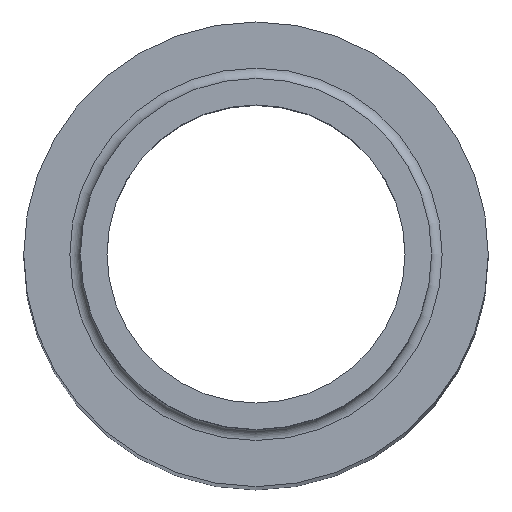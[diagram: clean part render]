
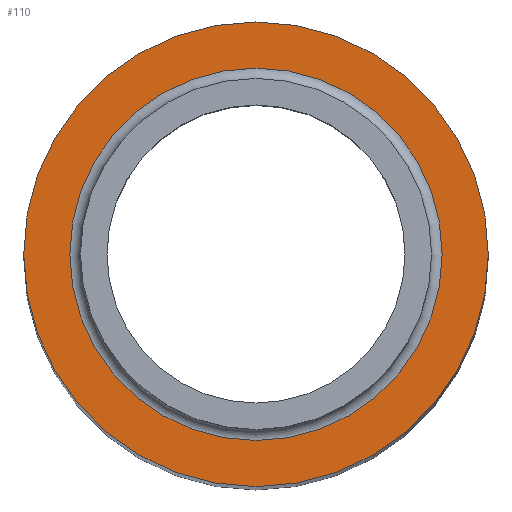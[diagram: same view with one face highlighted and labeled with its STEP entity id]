
A CAD part, top view. The second image highlights one B-rep face of the part: STEP entity #110.
In plain terms, the highlighted planar face has unit normal (0, 0, 1).
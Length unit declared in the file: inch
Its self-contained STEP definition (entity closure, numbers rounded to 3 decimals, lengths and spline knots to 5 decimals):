
#110=ADVANCED_FACE('',(#123,#124),#119,.T.);
#119=PLANE('',#208);
#123=FACE_BOUND('',#141,.T.);
#124=FACE_BOUND('',#142,.T.);
#141=EDGE_LOOP('',(#159));
#142=EDGE_LOOP('',(#160));
#159=ORIENTED_EDGE('',*,*,#186,.T.);
#160=ORIENTED_EDGE('',*,*,#187,.F.);
#177=VERTEX_POINT('',#266);
#178=VERTEX_POINT('',#268);
#186=EDGE_CURVE('',#177,#177,#195,.T.);
#187=EDGE_CURVE('',#178,#178,#196,.T.);
#195=CIRCLE('',#206,0.08775);
#196=CIRCLE('',#207,0.1095);
#206=AXIS2_PLACEMENT_3D('',#265,#229,#230);
#207=AXIS2_PLACEMENT_3D('',#267,#231,#232);
#208=AXIS2_PLACEMENT_3D('',#269,#233,#234);
#229=DIRECTION('',(0.,0.,-1.));
#230=DIRECTION('',(1.,0.,0.));
#231=DIRECTION('',(0.,0.,-1.));
#232=DIRECTION('',(1.,0.,0.));
#233=DIRECTION('',(0.,0.,1.));
#234=DIRECTION('',(1.,0.,0.));
#265=CARTESIAN_POINT('',(0.,0.,0.));
#266=CARTESIAN_POINT('',(0.08775,0.,0.));
#267=CARTESIAN_POINT('',(0.,0.,0.));
#268=CARTESIAN_POINT('',(0.1095,0.,0.));
#269=CARTESIAN_POINT('',(0.,0.,0.));
